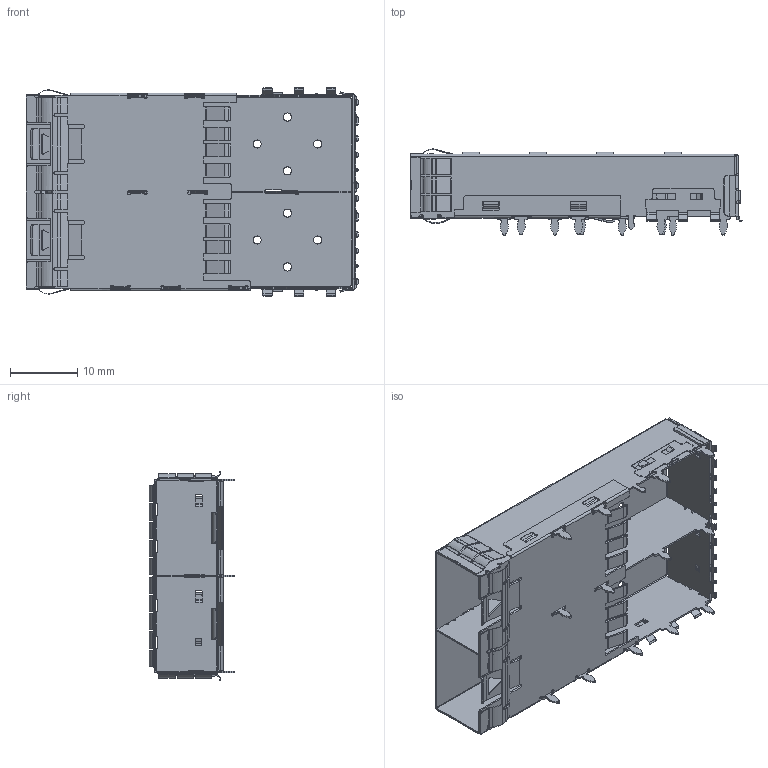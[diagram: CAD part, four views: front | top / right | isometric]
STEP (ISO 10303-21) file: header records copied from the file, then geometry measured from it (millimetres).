
FILE_DESCRIPTION (( 'STEP AP214' ), '1' );
FILE_NAME ('ゐ價1X2蜊桴褐勤揤CAGE.STEP', '2020-04-23T01:11:57', ( '' ), ( '' ), 'SwSTEP 2.0', 'SolidWorks 2015', '' );
FILE_SCHEMA (( 'AUTOMOTIVE_DESIGN' ));
Length unit declared in the file: millimetre
Products named in the file (1): ゐ價1X2蜊桴褐勤揤CAGE
Bounding box: 49.27 x 12.75 x 30.96 mm (x, y, z)
Volume: 1025 mm3; surface area: 8833.9 mm2
Topology: 1 solids, 1 shells, 2158 faces, 6574 edges, 4307 vertices
Faces by surface type: cylinder 1087, plane 995, bspline 76
Entity records: 77436 total; most frequent: CARTESIAN_POINT 16927, ORIENTED_EDGE 13148, DIRECTION 12667, EDGE_CURVE 6574, VERTEX_POINT 4307, AXIS2_PLACEMENT_3D 4285, VECTOR 4097, LINE 4097
